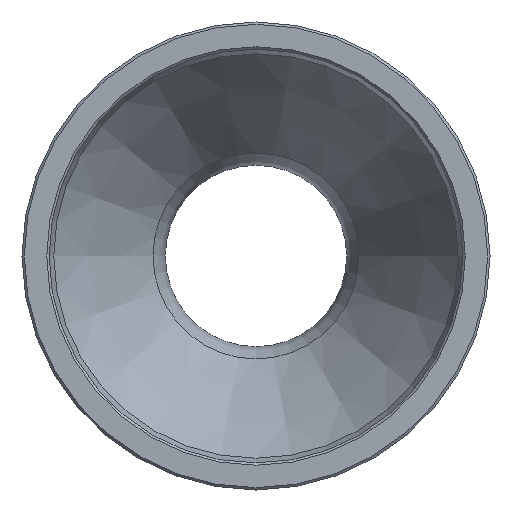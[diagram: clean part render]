
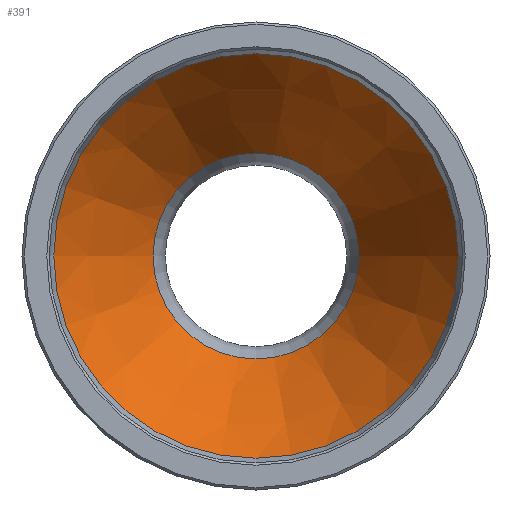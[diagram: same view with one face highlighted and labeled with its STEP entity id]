
A CAD part, left-side view. The second image highlights one B-rep face of the part: STEP entity #391.
In plain terms, the highlighted conical face has half-angle 31.454 degrees and reference radius 12.944 mm.
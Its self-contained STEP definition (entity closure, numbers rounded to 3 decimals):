
#357=CARTESIAN_POINT('',(-5.921,8.733,0.0));
#358=VERTEX_POINT('',#357);
#359=CARTESIAN_POINT('',(-5.921,0.0,0.0));
#360=DIRECTION('',(1.0,0.0,0.0));
#361=DIRECTION('',(0.0,1.0,0.0));
#362=AXIS2_PLACEMENT_3D('',#359,#360,#361);
#363=CIRCLE('',#362,8.733);
#364=EDGE_CURVE('',#358,#358,#363,.T.);
#372=CARTESIAN_POINT('',(-12.806,0.0,0.0));
#373=DIRECTION('',(-1.0,0.0,0.0));
#374=DIRECTION('',(0.0,1.0,0.0));
#375=AXIS2_PLACEMENT_3D('',#372,#373,#374);
#376=CONICAL_SURFACE('',#375,12.944,31.454);
#377=CARTESIAN_POINT('',(-19.691,17.156,0.0));
#378=VERTEX_POINT('',#377);
#379=CARTESIAN_POINT('',(-19.691,0.0,0.0));
#380=DIRECTION('',(1.0,0.0,0.0));
#381=DIRECTION('',(0.0,1.0,0.0));
#382=AXIS2_PLACEMENT_3D('',#379,#380,#381);
#383=CIRCLE('',#382,17.156);
#384=EDGE_CURVE('',#378,#378,#383,.T.);
#385=ORIENTED_EDGE('',*,*,#384,.F.);
#386=EDGE_LOOP('',(#385));
#387=FACE_OUTER_BOUND('',#386,.T.);
#388=ORIENTED_EDGE('',*,*,#364,.T.);
#389=EDGE_LOOP('',(#388));
#390=FACE_BOUND('',#389,.T.);
#391=ADVANCED_FACE('',(#387,#390),#376,.F.);
